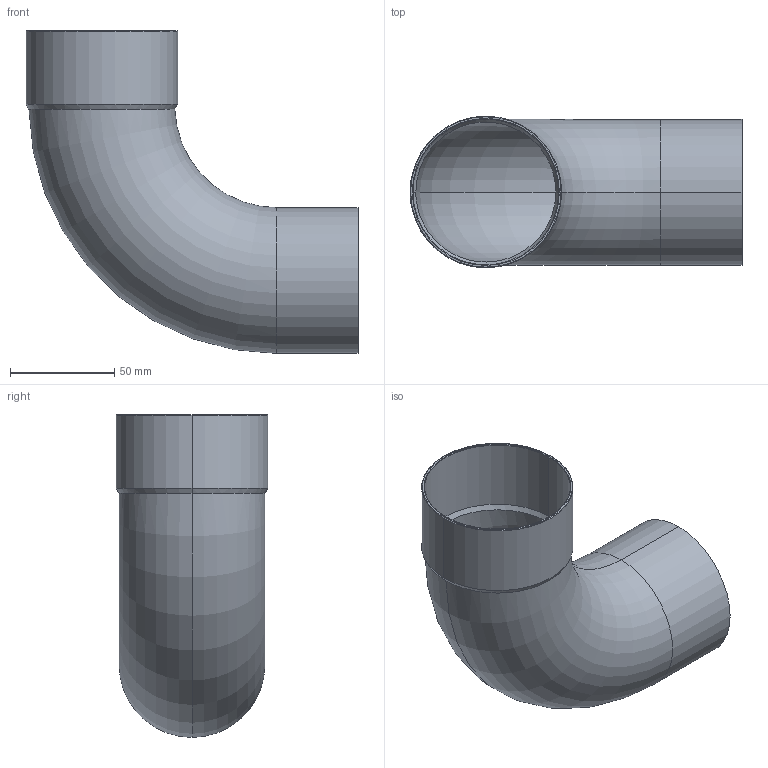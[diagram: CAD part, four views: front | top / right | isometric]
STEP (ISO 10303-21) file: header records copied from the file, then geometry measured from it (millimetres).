
FILE_DESCRIPTION((''),'2;1');
FILE_NAME('P:\Bouwmaten\z-maattekeningen 3D\5000\5001a\15001a70.stp','2005-10-04T14:59:59',('Kris'),(''),'Autodesk Inventor 8','Autodesk Inventor 8','');
FILE_SCHEMA(('AUTOMOTIVE_DESIGN { 1 0 10303 214 1 1 1 1 }'));
Length unit declared in the file: millimetre
Products named in the file (1): 15001a70
Bounding box: 159.4 x 72.8 x 155 mm (x, y, z)
Volume: 62983 mm3; surface area: 90541.4 mm2
Topology: 1 solids, 1 shells, 22 faces, 46 edges, 26 vertices
Faces by surface type: cone 8, cylinder 8, torus 4, plane 2
Entity records: 683 total; most frequent: CARTESIAN_POINT 175, DIRECTION 114, ORIENTED_EDGE 92, AXIS2_PLACEMENT_3D 49, EDGE_CURVE 46, VERTEX_POINT 26, CIRCLE 26, EDGE_LOOP 24
